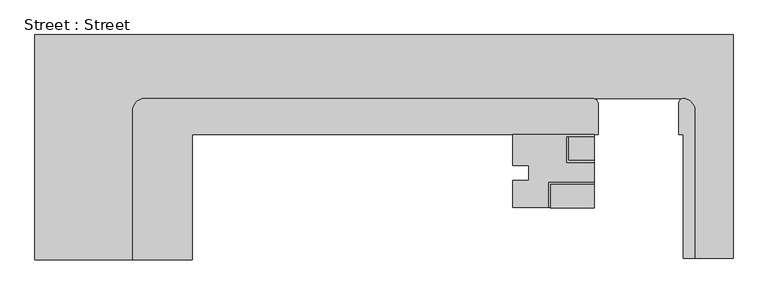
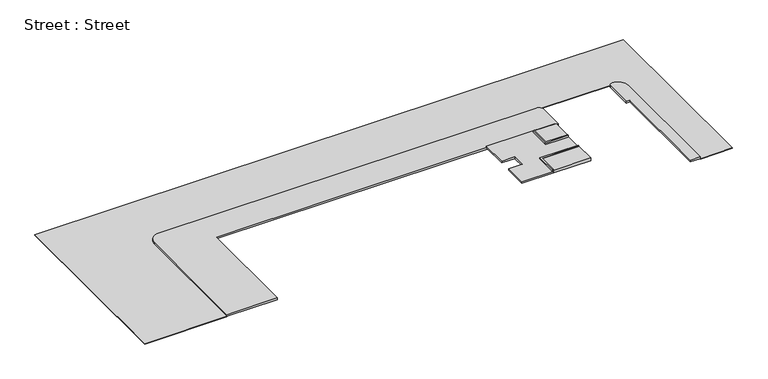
"""IFC4 building model written with IfcOpenShell, lengths in millimetres: geographic element geometry, Street : Street."""

from ifc_helpers import new_model, si_unit, point, frame, frame_2d, origin, place, context, project, spatial, polyline, circle_curve, trimmed, segment, composite_curve, outline, extrude, source, transform, mapped, element, save


def street_street_e2ba851e(model_context):
    return source(origin(), model_context, "Body", "SweptSolid", [
        extrude(outline(polyline([(10364.6464708, -280.9526736), (10364.6464708, -2103.4064015), (7029.4950289, -2103.4064015), (7029.4950289, -280.9526736), (10364.6464708, -280.9526736)])), frame((0.0, 0.0, -1117.6), z_axis=(0.0, 0.0, 1.0), x_axis=(1.0, 0.0, 0.0)), (0.0, 0.0, 1.0), 254.0),
        extrude(outline(polyline([(10365.2688631, 3306.7935985), (10365.2688631, 1497.0473264), (8401.0950289, 1497.0473264), (8401.0950289, 3306.7935985), (10365.2688631, 3306.7935985)])), frame((0.0, 0.0, -1117.6), z_axis=(0.0, 0.0, 1.0), x_axis=(1.0, 0.0, 0.0)), (0.0, 0.0, 1.0), 254.0),
        extrude(outline(polyline([(7029.4950289, -280.9526736), (7029.4950289, -2084.3526736), (6902.4950289, -2084.3526736), (6902.4950289, -280.9526736), (6902.4950289, -153.9526736), (10356.8950289, -153.9526736), (10356.8950289, -280.9526736), (7029.4950289, -280.9526736)])), frame((0.0, 0.0, -965.2), z_axis=(0.0, 0.0, 1.0), x_axis=(1.0, 0.0, 0.0)), (0.0, 0.0, 1.0), 152.4),
        extrude(outline(polyline([(8401.0950289, 1497.0473264), (10364.6464708, 1497.0473264), (10364.6464708, 1370.0473264), (8274.0950289, 1370.0473264), (8274.0950289, 1497.0473264), (8274.0950289, 3306.7935985), (8401.0950289, 3306.7935985), (8401.0950289, 1497.0473264)])), frame((0.0, 0.0, -965.2), z_axis=(0.0, 0.0, 1.0), x_axis=(1.0, 0.0, 0.0)), (0.0, 0.0, 1.0), 152.4),
        extrude(outline(polyline([(10364.6464708, 3306.7935985), (8401.0950289, 3306.7935985), (8401.0950289, 1497.0473264), (10364.6464708, 1497.0473264), (10364.6464708, -280.9526736), (7029.4950289, -280.9526736), (7029.4950289, -2084.3526736), (4154.3464708, -2084.3526736), (4154.3464708, -14.2526736), (5361.4688631, -14.2526736), (5361.4688631, 1119.8194782), (4154.3464708, 1119.8194782), (4154.3464708, 3509.9935985), (10364.6464708, 3509.9935985), (10364.6464708, 3306.7935985)])), frame((0.0, 0.0, -1117.6), z_axis=(0.0, 0.0, 1.0), x_axis=(1.0, 0.0, 0.0)), (0.0, 0.0, 1.0), 152.4),
        extrude(outline(composite_curve([segment(polyline([(-24890.5535292, -6091.2064015), (-32358.1535292, -6091.2064015), (-32358.1535292, 11129.9935985), (20981.8464708, 11129.9935985), (20981.8464708, -5964.2064015), (18067.1964708, -5964.2064015), (18067.1964708, 5338.7935985)]), True, "CONTINUOUS"), segment(trimmed(circle_curve(frame_2d((17152.7964708, 5338.7935985)), 914.4), [point((18067.1964708, 5338.7935985))], [point((17152.7964708, 6253.1935985))], True, "CARTESIAN"), True, "CONTINUOUS"), segment(polyline([(17152.7964708, 6253.1935985), (10694.8464708, 6253.1935985), (-23976.1535292, 6253.1935985)]), True, "CONTINUOUS"), segment(trimmed(circle_curve(frame_2d((-23976.1535292, 5338.7935985)), 914.4), [point((-23976.1535292, 6253.1935985))], [point((-24890.5535292, 5338.7935985))], True, "CARTESIAN"), True, "CONTINUOUS"), segment(polyline([(-24890.5535292, 5338.7935985), (-24890.5535292, -6091.2064015)]), True, "CONTINUOUS")], self_intersect=False)), frame((0.0, 0.0, -1320.8), z_axis=(0.0, 0.0, 1.0), x_axis=(1.0, 0.0, 0.0)), (0.0, 0.0, 1.0), 50.8),
        extrude(outline(composite_curve([segment(trimmed(circle_curve(frame_2d((17152.7964708, 5948.3935985)), 304.8), [point((16847.9964708, 5948.3935985))], [point((17152.7964708, 6253.1935985))], False, "CARTESIAN"), True, "CONTINUOUS"), segment(trimmed(circle_curve(frame_2d((17152.7964708, 5338.7935985)), 914.4), [point((17152.7964708, 6253.1935985))], [point((18067.1964708, 5338.7935985))], False, "CARTESIAN"), True, "CONTINUOUS"), segment(polyline([(18067.1964708, 5338.7935985), (18067.1964708, -5964.2064015), (17171.8464708, -5964.2064015), (17171.8464708, 3509.9935985), (16847.9964708, 3509.9935985), (16847.9964708, 5948.3935985)]), True, "CONTINUOUS")], self_intersect=False)), frame((0.0, 0.0, -1270.0), z_axis=(0.0, 0.0, 1.0), x_axis=(1.0, 0.0, 0.0)), (0.0, 0.0, 1.0), 152.4),
        extrude(outline(composite_curve([segment(polyline([(-23976.1535292, 6253.1935985), (10256.6964708, 6253.1935985)]), True, "CONTINUOUS"), segment(trimmed(circle_curve(frame_2d((10256.6964708, 5821.3935985)), 431.8), [point((10256.6964708, 6253.1935985))], [point((10688.4964708, 5821.3935985))], False, "CARTESIAN"), True, "CONTINUOUS"), segment(polyline([(10688.4964708, 5821.3935985), (10688.4964708, 3509.9935985), (-20318.5535292, 3509.9935985), (-20318.5535292, -6091.2064015), (-24890.5535292, -6091.2064015), (-24890.5535292, 5338.7935985)]), True, "CONTINUOUS"), segment(trimmed(circle_curve(frame_2d((-23976.1535292, 5338.7935985)), 914.4), [point((-24890.5535292, 5338.7935985))], [point((-23976.1535292, 6253.1935985))], False, "CARTESIAN"), True, "CONTINUOUS")], self_intersect=False)), frame((0.0, 0.0, -1270.0), z_axis=(0.0, 0.0, 1.0), x_axis=(1.0, 0.0, 0.0)), (0.0, 0.0, 1.0), 152.4),
    ])


if __name__ == "__main__":
    model = new_model("IFC4")
    model_context = context("Model", 3, world=origin())
    ifc_project = project(units=[si_unit("LENGTHUNIT", "METRE", prefix="MILLI")], contexts=[model_context])
    site = spatial("IfcSite", under=ifc_project)
    building = spatial("IfcBuilding", under=site)
    placement = place(None, origin())
    street_street_shape = street_street_e2ba851e(model_context)
    element("IfcGeographicElement", 1, ObjectType="Street : Street", at=placement, inside=building, context=model_context, shape_type="MappedRepresentation", body=[
        mapped(street_street_shape, transform((0.0, 0.0, 0.0), x_axis=(1.0, 0.0, 0.0), y_axis=(0.0, 1.0, 0.0), z_axis=(0.0, 0.0, 1.0))),
    ])
    save(model, "model.ifc")
